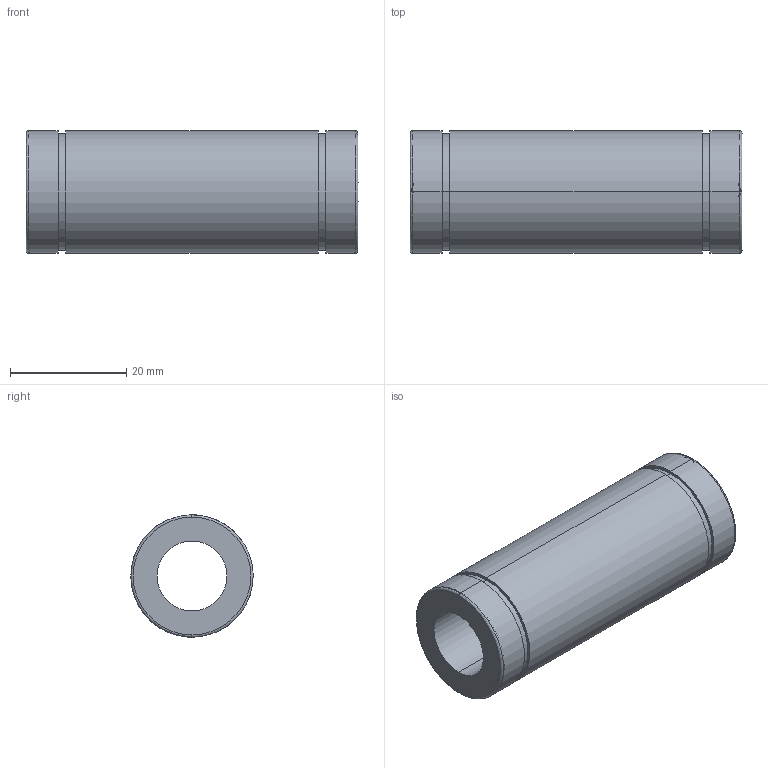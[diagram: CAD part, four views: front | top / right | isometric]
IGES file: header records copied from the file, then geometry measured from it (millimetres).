
Start section: 3D InterOp IGES (Version 21 0 1), Spatial Corp. Copyright (c) 1999-2007.
Global section: file name: NL-12V.igs; native system: Spatial Corp.; preprocessor: 3D InterOp GENERIC/IGES 3.0; author: Noname; organization: Noname; date: 20220311.145718; units: millimetre
Bounding box: 57 x 21 x 21 mm (x, y, z)
Surface area: 6948.2 mm2 (no closed solid volume)
Topology: 0 solids, 0 shells, 22 faces, 96 edges, 92 vertices
Faces by surface type: revolution 16, extrusion 6
